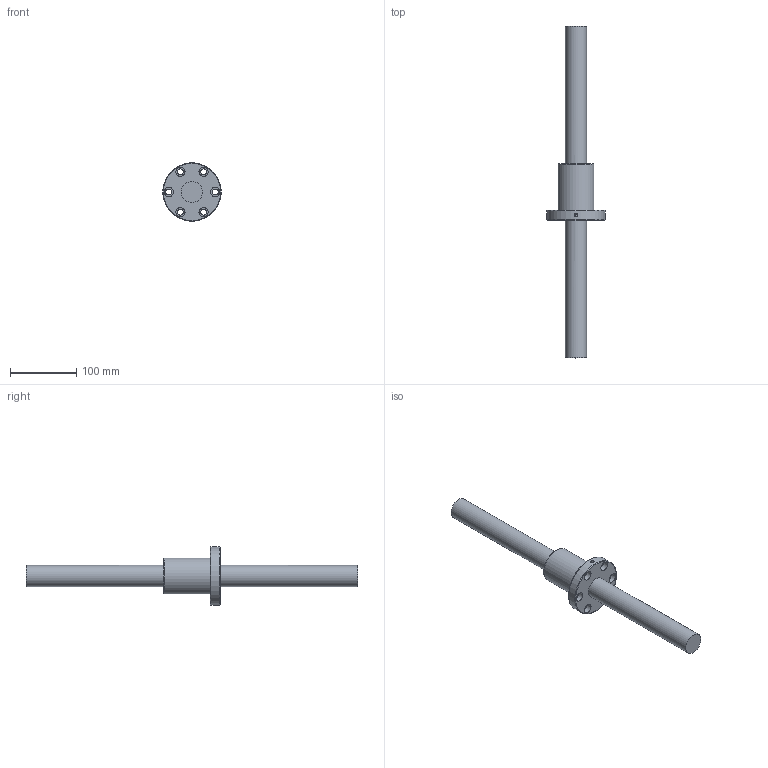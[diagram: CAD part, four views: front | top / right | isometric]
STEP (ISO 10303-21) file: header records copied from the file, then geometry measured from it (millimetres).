
FILE_DESCRIPTION (( 'STEP AP203' ), '1' );
FILE_NAME ('SFNI3210.STEP', '2023-06-06T03:12:34', ( '' ), ( '' ), 'SwSTEP 2.0', 'SolidWorks 2022', '' );
FILE_SCHEMA (( 'CONFIG_CONTROL_DESIGN' ));
Length unit declared in the file: millimetre
Products named in the file (1): SFNI3210
Bounding box: 88 x 500 x 88 mm (x, y, z)
Volume: 574887.7 mm3; surface area: 89641.1 mm2
Topology: 2 solids, 2 shells, 34 faces, 66 edges, 44 vertices
Faces by surface type: cylinder 19, plane 12, torus 3
Full cylindrical faces by diameter (mm): 4 x1, 5 x1, 9 x6, 14 x6, 32 x2, 54 x1, 88 x1
Entity records: 1131 total; most frequent: CARTESIAN_POINT 397, DIRECTION 145, ORIENTED_EDGE 82, EDGE_LOOP 80, AXIS2_PLACEMENT_3D 72, FACE_OUTER_BOUND 55, EDGE_CURVE 41, VERTEX_POINT 41
